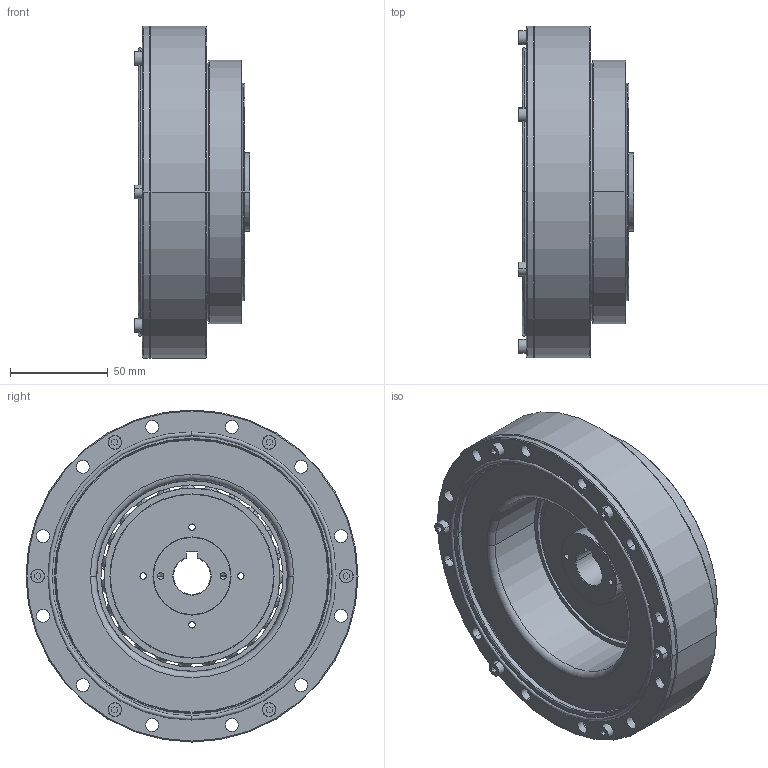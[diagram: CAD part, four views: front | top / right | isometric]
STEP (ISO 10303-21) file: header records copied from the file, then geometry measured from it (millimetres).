
FILE_DESCRIPTION (( 'STEP AP203' ), '1' );
FILE_NAME ('FHG-40-XXX-SJ.STEP', '2023-01-17T05:47:16', ( '微软用户' ), ( '微软中国' ), 'SwSTEP 2.0', 'SolidWorks 2016', '' );
FILE_SCHEMA (( 'CONFIG_CONTROL_DESIGN' ));
Length unit declared in the file: millimetre
Products named in the file (1): FHG-40-XXX-SJ
Bounding box: 59 x 170 x 170 mm (x, y, z)
Volume: 604141.7 mm3; surface area: 268171.4 mm2
Topology: 46 solids, 46 shells, 818 faces, 1998 edges, 1235 vertices
Faces by surface type: cylinder 356, plane 192, cone 146, torus 78, sphere 46
Entity records: 23330 total; most frequent: DIRECTION 4549, CARTESIAN_POINT 3824, ORIENTED_EDGE 3654, AXIS2_PLACEMENT_3D 1907, EDGE_CURVE 1827, VERTEX_POINT 1166, CIRCLE 1088, EDGE_LOOP 1017
